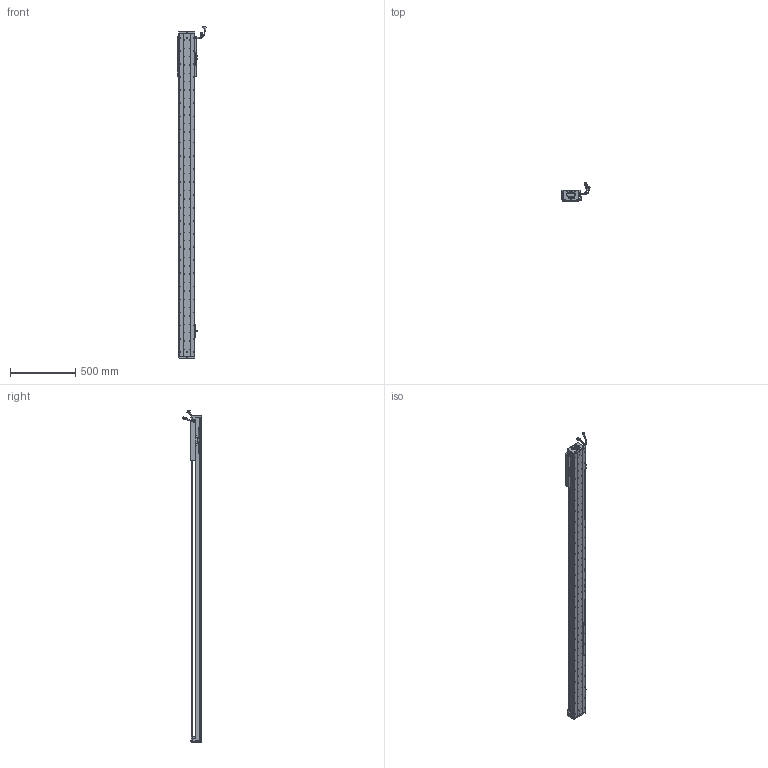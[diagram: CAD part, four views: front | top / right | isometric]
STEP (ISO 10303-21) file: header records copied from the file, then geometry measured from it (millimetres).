
FILE_DESCRIPTION (( 'STEP AP203' ), '1' );
FILE_NAME ('Z4-RY120D-1-L500-B-K.SLDASM_2100.step', '2021-05-17T06:09:27', ( '盈信电脑' ), ( '东莞市道滘镇水果街19号' ), 'SwSTEP 2.0', 'SolidWorks 2016', '' );
FILE_SCHEMA (( 'CONFIG_CONTROL_DESIGN' ));
Length unit declared in the file: millimetre
Products named in the file (37): SEAL-Part-1; SCREW-M1.6; SCALE; LABEL-Part-1; SCALE-Part-2; 覜茼ん672; HOLDER0; SCALE-Part-1; 080黍杅芛假蚾釱21遴; SCREW-M1.6-2; PSLH080_PSLF2; 140蚥薯蝶輸; HARNESS-Part-2; RY100FB-遵嫖萇覜茼え; 榋妏寠巭燃_暯_M2_2; COVER-Part-1; SCREW-M1.7; COVER; Z4-RY120-L500詩湍100mm遵_2100; 120-Z-臏賑輸盄裔(21遴); Z4-RY120铝滑块（21款）; HARNESS-Part-1; Z-RY120D詩湍狟揤裔; 140雄赽晤鎢ん堤盄; HARNESS; Z-120詩湍傷裔啣; Z-RY120D詩湍奻揤裔; SEAL; SCREW-M1.6-1; LABEL; Z4-RY120-500-倰第菁釱_2100; SCREW-M1.7-1; Z4-RY120D-1-L500-B-K.SLDASM_2100; SCREW-M1.6-3; SHIELDPLATE; 672嫖萇羲壽假蚾釱; PBU_SHEET
Assembly tree (43 placements, depth 4):
  Z4-RY120D-1-L500-B-K.SLDASM_2100
    Z4-RY120-500-倰第菁釱_2100
    覜茼ん672  x3
    672嫖萇羲壽假蚾釱  x2
    Z4-RY120铝滑块（21款）
    PSLH080_PSLF2
      SCALE
        SCALE-Part-1
        SCALE-Part-2
      HARNESS
        HARNESS-Part-1
        HARNESS-Part-2
      LABEL
        LABEL-Part-1
      COVER
        COVER-Part-1
      SEAL
        SEAL-Part-1
      榋妏寠巭燃_暯_M2_2
      SHIELDPLATE
      SCREW-M1.7
      SCREW-M1.7-1
      PBU_SHEET
      SCREW-M1.6
      SCREW-M1.6-1
      SCREW-M1.6-2
      SCREW-M1.6-3
      HOLDER0
    080黍杅芛假蚾釱21遴
    120-Z-臏賑輸盄裔(21遴)
    140雄赽晤鎢ん堤盄
    140蚥薯蝶輸  x2
    RY100FB-遵嫖萇覜茼え
    Z-120詩湍傷裔啣  x2
    Z-RY120D詩湍奻揤裔  x2
    Z-RY120D詩湍狟揤裔  x2
    Z4-RY120-L500詩湍100mm遵_2100
Bounding box: 222.88 x 140.94 x 2538.99 mm (x, y, z)
Volume: 6181378.4 mm3; surface area: 2122825.9 mm2
Topology: 38 solids, 38 shells, 3639 faces, 10328 edges, 6518 vertices
Faces by surface type: cylinder 1900, plane 1241, cone 376, torus 69, bspline 53
Entity records: 121467 total; most frequent: CARTESIAN_POINT 36962, ORIENTED_EDGE 17432, DIRECTION 16048, EDGE_CURVE 8716, AXIS2_PLACEMENT_3D 5936, VERTEX_POINT 5638, VECTOR 4176, LINE 4176
